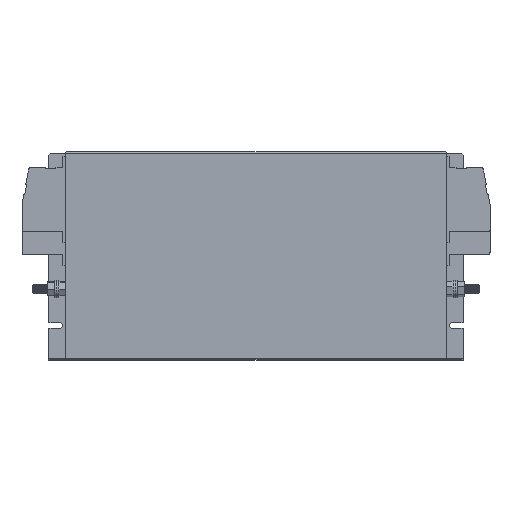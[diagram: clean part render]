
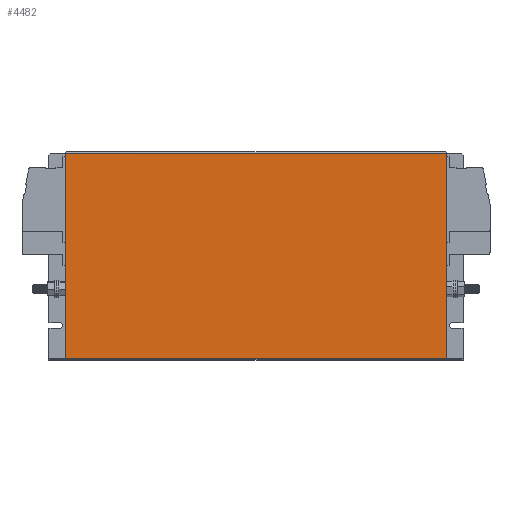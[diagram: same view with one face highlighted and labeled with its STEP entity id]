
A CAD part, top view. The second image highlights one B-rep face of the part: STEP entity #4482.
In plain terms, the highlighted planar face has unit normal (0, 0, 1).
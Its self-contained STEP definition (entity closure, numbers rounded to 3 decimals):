
#106 = EDGE_LOOP ( 'NONE', ( #3025, #2535, #2949, #2313 ) ) ;
#252 = VERTEX_POINT ( 'NONE', #1318 ) ;
#1318 = CARTESIAN_POINT ( 'NONE',  ( 19., 1.5, 1.5 ) ) ;
#2313 = ORIENTED_EDGE ( 'NONE', *, *, #8802, .T. ) ;
#2429 = CARTESIAN_POINT ( 'NONE',  ( 19., 238.5, 1.5 ) ) ;
#2535 = ORIENTED_EDGE ( 'NONE', *, *, #7272, .T. ) ;
#2949 = ORIENTED_EDGE ( 'NONE', *, *, #3162, .T. ) ;
#3025 = ORIENTED_EDGE ( 'NONE', *, *, #6795, .F. ) ;
#3104 = CARTESIAN_POINT ( 'NONE',  ( 459., 240., 1.5 ) ) ;
#3162 = EDGE_CURVE ( 'NONE', #7637, #252, #6025, .T. ) ;
#3348 = VECTOR ( 'NONE', #4806, 1000. ) ;
#3469 = VECTOR ( 'NONE', #6149, 1000. ) ;
#3557 = CARTESIAN_POINT ( 'NONE',  ( 19., 238.5, 1.5 ) ) ;
#3824 = DIRECTION ( 'NONE',  ( 0., -1., 0. ) ) ;
#4182 = DIRECTION ( 'NONE',  ( 1., 0., 0. ) ) ;
#4326 = DIRECTION ( 'NONE',  ( 0., 0., -1. ) ) ;
#4482 = ADVANCED_FACE ( 'NONE', ( #10289 ), #6043, .F. ) ;
#4806 = DIRECTION ( 'NONE',  ( 0., -1., 0. ) ) ;
#4995 = CARTESIAN_POINT ( 'NONE',  ( 459., 238.5, 1.5 ) ) ;
#5623 = LINE ( 'NONE', #3104, #3348 ) ;
#5833 = LINE ( 'NONE', #8479, #9448 ) ;
#6025 = LINE ( 'NONE', #6377, #6308 ) ;
#6043 = PLANE ( 'NONE',  #9947 ) ;
#6149 = DIRECTION ( 'NONE',  ( -1., 0., 0. ) ) ;
#6308 = VECTOR ( 'NONE', #3824, 1000. ) ;
#6377 = CARTESIAN_POINT ( 'NONE',  ( 19., 240., 1.5 ) ) ;
#6688 = CARTESIAN_POINT ( 'NONE',  ( 459., 1.5, 1.5 ) ) ;
#6795 = EDGE_CURVE ( 'NONE', #6974, #10081, #5623, .T. ) ;
#6974 = VERTEX_POINT ( 'NONE', #4995 ) ;
#7272 = EDGE_CURVE ( 'NONE', #6974, #7637, #10962, .T. ) ;
#7637 = VERTEX_POINT ( 'NONE', #2429 ) ;
#7797 = CARTESIAN_POINT ( 'NONE',  ( 19., 240., 1.5 ) ) ;
#8479 = CARTESIAN_POINT ( 'NONE',  ( 19., 1.5, 1.5 ) ) ;
#8802 = EDGE_CURVE ( 'NONE', #252, #10081, #5833, .T. ) ;
#9448 = VECTOR ( 'NONE', #4182, 1000. ) ;
#9947 = AXIS2_PLACEMENT_3D ( 'NONE', #7797, #4326, #10324 ) ;
#10081 = VERTEX_POINT ( 'NONE', #6688 ) ;
#10289 = FACE_OUTER_BOUND ( 'NONE', #106, .T. ) ;
#10324 = DIRECTION ( 'NONE',  ( -1., 0., 0. ) ) ;
#10962 = LINE ( 'NONE', #3557, #3469 ) ;
